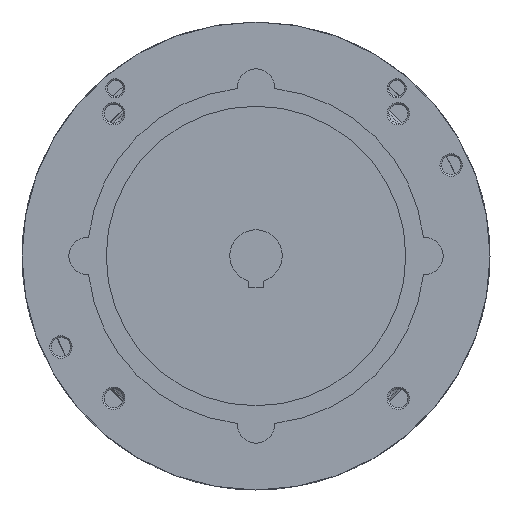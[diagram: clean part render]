
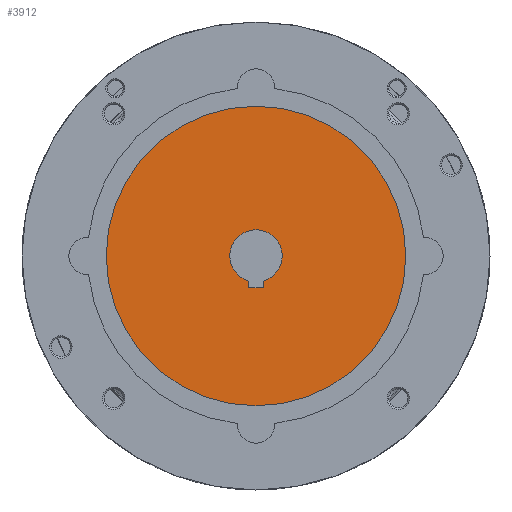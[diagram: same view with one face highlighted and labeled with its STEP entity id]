
A CAD part, front view. The second image highlights one B-rep face of the part: STEP entity #3912.
In plain terms, the highlighted planar face has unit normal (0, -1, 0).
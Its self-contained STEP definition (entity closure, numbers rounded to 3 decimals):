
#515 = EDGE_LOOP ( 'NONE', ( #8401, #4831, #9335, #12436 ) ) ;
#537 = DIRECTION ( 'NONE',  ( 0., -1., 0. ) ) ;
#1115 = EDGE_CURVE ( 'NONE', #12930, #11097, #14038, .T. ) ;
#1332 = AXIS2_PLACEMENT_3D ( 'NONE', #9067, #2316, #12434 ) ;
#1445 = EDGE_LOOP ( 'NONE', ( #4156 ) ) ;
#2096 = VECTOR ( 'NONE', #12421, 1000. ) ;
#2316 = DIRECTION ( 'NONE',  ( 0., -1., 0. ) ) ;
#3365 = CARTESIAN_POINT ( 'NONE',  ( -4., -39.301, -17. ) ) ;
#3551 = CARTESIAN_POINT ( 'NONE',  ( 0., -39.301, 0. ) ) ;
#3633 = EDGE_CURVE ( 'NONE', #9441, #12930, #5102, .T. ) ;
#3912 = ADVANCED_FACE ( 'NONE', ( #11732, #4198 ), #9607, .T. ) ;
#4033 = CIRCLE ( 'NONE', #10385, 80. ) ;
#4156 = ORIENTED_EDGE ( 'NONE', *, *, #5333, .T. ) ;
#4166 = DIRECTION ( 'NONE',  ( 0., 0., 1. ) ) ;
#4198 = FACE_OUTER_BOUND ( 'NONE', #1445, .T. ) ;
#4831 = ORIENTED_EDGE ( 'NONE', *, *, #3633, .F. ) ;
#5102 = LINE ( 'NONE', #13719, #2096 ) ;
#5333 = EDGE_CURVE ( 'NONE', #6684, #6684, #4033, .T. ) ;
#5648 = CARTESIAN_POINT ( 'NONE',  ( 4., -39.301, -13.416 ) ) ;
#6512 = CIRCLE ( 'NONE', #11999, 14. ) ;
#6684 = VERTEX_POINT ( 'NONE', #13771 ) ;
#7128 = CARTESIAN_POINT ( 'NONE',  ( 0., -39.301, 0. ) ) ;
#7388 = VERTEX_POINT ( 'NONE', #14302 ) ;
#7775 = DIRECTION ( 'NONE',  ( 0., 0., -1. ) ) ;
#8341 = VECTOR ( 'NONE', #4166, 1000. ) ;
#8401 = ORIENTED_EDGE ( 'NONE', *, *, #1115, .F. ) ;
#8729 = CARTESIAN_POINT ( 'NONE',  ( 4., -39.301, -17. ) ) ;
#9067 = CARTESIAN_POINT ( 'NONE',  ( 0., -39.301, 0. ) ) ;
#9142 = LINE ( 'NONE', #14348, #11394 ) ;
#9335 = ORIENTED_EDGE ( 'NONE', *, *, #9426, .F. ) ;
#9426 = EDGE_CURVE ( 'NONE', #7388, #9441, #9142, .T. ) ;
#9441 = VERTEX_POINT ( 'NONE', #3365 ) ;
#9607 = PLANE ( 'NONE',  #1332 ) ;
#9628 = CARTESIAN_POINT ( 'NONE',  ( 4., -39.301, -17. ) ) ;
#9724 = EDGE_CURVE ( 'NONE', #11097, #7388, #6512, .T. ) ;
#10385 = AXIS2_PLACEMENT_3D ( 'NONE', #3551, #11389, #12338 ) ;
#10447 = DIRECTION ( 'NONE',  ( 0., 0., -1. ) ) ;
#11097 = VERTEX_POINT ( 'NONE', #5648 ) ;
#11389 = DIRECTION ( 'NONE',  ( 0., -1., 0. ) ) ;
#11394 = VECTOR ( 'NONE', #7775, 1000. ) ;
#11732 = FACE_BOUND ( 'NONE', #515, .T. ) ;
#11999 = AXIS2_PLACEMENT_3D ( 'NONE', #7128, #537, #10447 ) ;
#12338 = DIRECTION ( 'NONE',  ( 0., 0., -1. ) ) ;
#12421 = DIRECTION ( 'NONE',  ( 1., 0., 0. ) ) ;
#12434 = DIRECTION ( 'NONE',  ( 0., 0., -1. ) ) ;
#12436 = ORIENTED_EDGE ( 'NONE', *, *, #9724, .F. ) ;
#12930 = VERTEX_POINT ( 'NONE', #8729 ) ;
#13719 = CARTESIAN_POINT ( 'NONE',  ( 4., -39.301, -17. ) ) ;
#13771 = CARTESIAN_POINT ( 'NONE',  ( 0., -39.301, -80. ) ) ;
#14038 = LINE ( 'NONE', #9628, #8341 ) ;
#14302 = CARTESIAN_POINT ( 'NONE',  ( -4., -39.301, -13.416 ) ) ;
#14348 = CARTESIAN_POINT ( 'NONE',  ( -4., -39.301, -17. ) ) ;
